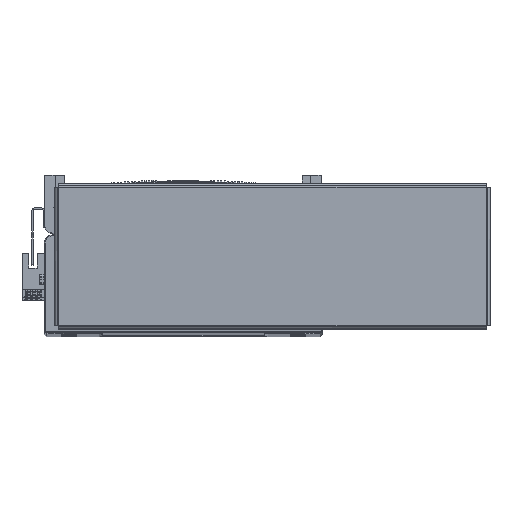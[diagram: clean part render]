
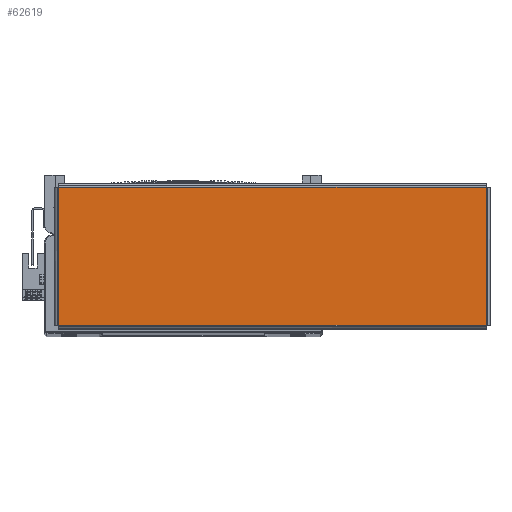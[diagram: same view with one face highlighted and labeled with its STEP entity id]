
A CAD part, top view. The second image highlights one B-rep face of the part: STEP entity #62619.
In plain terms, the highlighted planar face has unit normal (0, 0, 1) as drawn and (0, -1, 0) by its records, which use the part's own axes.
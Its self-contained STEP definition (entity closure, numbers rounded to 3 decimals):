
#8615 = CARTESIAN_POINT ( 'NONE',  ( 130.863, -1.5, -42.263 ) ) ;
#8657 = CARTESIAN_POINT ( 'NONE',  ( -130.863, -1.5, -42.263 ) ) ;
#8662 = CARTESIAN_POINT ( 'NONE',  ( -130.863, -1.5, 42.263 ) ) ;
#8729 = CARTESIAN_POINT ( 'NONE',  ( 130.863, -1.5, 42.263 ) ) ;
#30057 = CARTESIAN_POINT ( 'NONE',  ( 130.893, -1.5, 42.263 ) ) ;
#30096 = DIRECTION ( 'NONE',  ( -1., 0., 0. ) ) ;
#30936 = VECTOR ( 'NONE', #41270, 1000. ) ;
#30957 = LINE ( 'NONE', #41278, #30936 ) ;
#31098 = VECTOR ( 'NONE', #40442, 1000. ) ;
#31127 = VECTOR ( 'NONE', #41327, 1000. ) ;
#31136 = LINE ( 'NONE', #40439, #31098 ) ;
#31156 = LINE ( 'NONE', #41359, #31127 ) ;
#31192 = VECTOR ( 'NONE', #30096, 1000. ) ;
#31223 = LINE ( 'NONE', #30057, #31192 ) ;
#40439 = CARTESIAN_POINT ( 'NONE',  ( -130.863, -1.5, 42.293 ) ) ;
#40442 = DIRECTION ( 'NONE',  ( 0., 0., -1. ) ) ;
#41270 = DIRECTION ( 'NONE',  ( 0., 0., 1. ) ) ;
#41278 = CARTESIAN_POINT ( 'NONE',  ( 130.863, -1.5, -42.293 ) ) ;
#41327 = DIRECTION ( 'NONE',  ( 1., 0., 0. ) ) ;
#41359 = CARTESIAN_POINT ( 'NONE',  ( -130.893, -1.5, -42.263 ) ) ;
#44752 = ORIENTED_EDGE ( 'NONE', *, *, #69089, .T. ) ;
#44755 = ORIENTED_EDGE ( 'NONE', *, *, #69103, .T. ) ;
#44833 = ORIENTED_EDGE ( 'NONE', *, *, #69081, .T. ) ;
#44843 = ORIENTED_EDGE ( 'NONE', *, *, #69045, .T. ) ;
#44861 = EDGE_LOOP ( 'NONE', ( #44843, #44755, #44752, #44833 ) ) ;
#58390 = AXIS2_PLACEMENT_3D ( 'NONE', #60185, #60199, #60206 ) ;
#60185 = CARTESIAN_POINT ( 'NONE',  ( 0., -1.5, 0. ) ) ;
#60199 = DIRECTION ( 'NONE',  ( 0., 1., 0. ) ) ;
#60206 = DIRECTION ( 'NONE',  ( 0., 0., 1. ) ) ;
#60226 = PLANE ( 'NONE',  #58390 ) ;
#62619 = ADVANCED_FACE ( 'NONE', ( #64581 ), #60226, .F. ) ;
#64581 = FACE_OUTER_BOUND ( 'NONE', #44861, .T. ) ;
#69045 = EDGE_CURVE ( 'NONE', #73774, #73837, #30957, .T. ) ;
#69081 = EDGE_CURVE ( 'NONE', #73778, #73774, #31156, .T. ) ;
#69089 = EDGE_CURVE ( 'NONE', #73750, #73778, #31136, .T. ) ;
#69103 = EDGE_CURVE ( 'NONE', #73837, #73750, #31223, .T. ) ;
#73750 = VERTEX_POINT ( 'NONE', #8662 ) ;
#73774 = VERTEX_POINT ( 'NONE', #8615 ) ;
#73778 = VERTEX_POINT ( 'NONE', #8657 ) ;
#73837 = VERTEX_POINT ( 'NONE', #8729 ) ;
